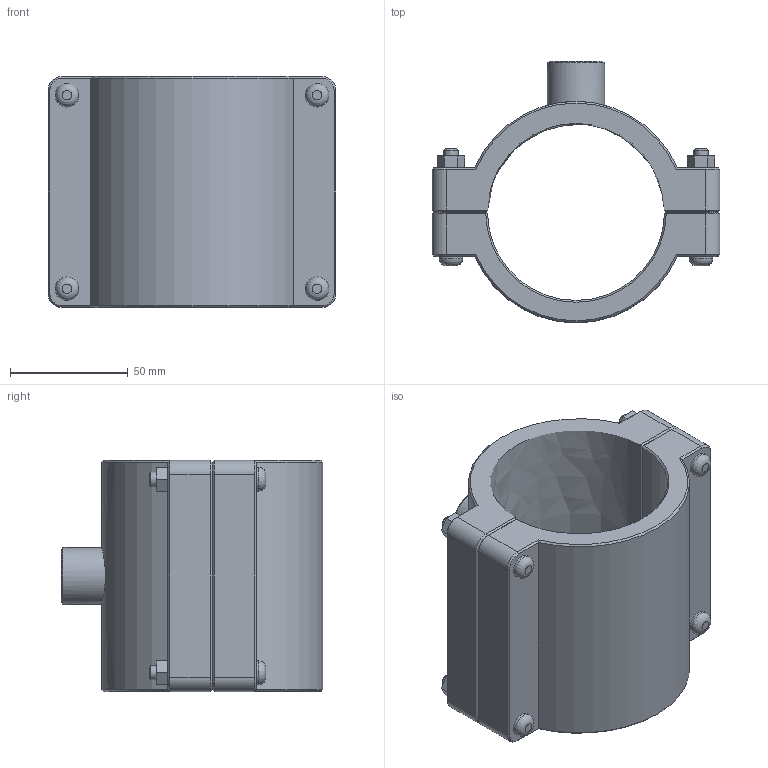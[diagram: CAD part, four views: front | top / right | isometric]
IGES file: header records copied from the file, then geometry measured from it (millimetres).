
Global section: file name: 160760075005_160860075005.ipt; native system: Autodesk Inventor 2015; preprocessor: unknown; author: KIM; date: 20170618.093510; units: millimetre
Bounding box: 122 x 110.88 x 98 mm (x, y, z)
Volume: 359012.1 mm3; surface area: 76764.4 mm2
Topology: 1 solids, 1 shells, 141 faces, 329 edges, 206 vertices
Faces by surface type: plane 82, cone 25, cylinder 23, revolution 11
Full cylindrical faces by diameter (mm): 6 x4, 10 x8, 24.22 x1
